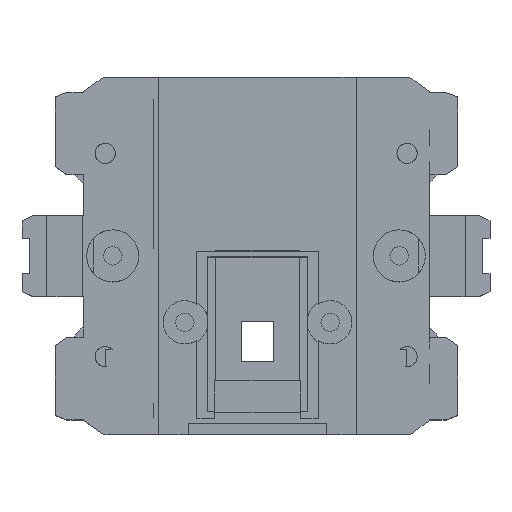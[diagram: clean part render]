
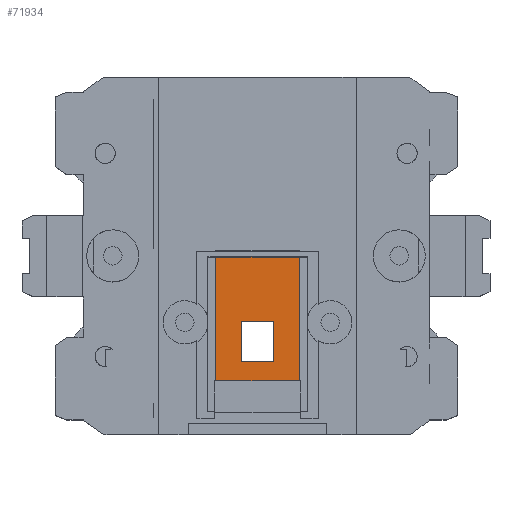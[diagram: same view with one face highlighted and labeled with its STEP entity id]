
A CAD part, top view. The second image highlights one B-rep face of the part: STEP entity #71934.
In plain terms, the highlighted planar face has unit normal (0, 0, 1).
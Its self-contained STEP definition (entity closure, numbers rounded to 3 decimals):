
#71765 = PLANE('',#71766);
#71766 = AXIS2_PLACEMENT_3D('',#71767,#71768,#71769);
#71767 = CARTESIAN_POINT('',(-1.358,-9.716,3.2));
#71768 = DIRECTION('',(1.,0.,-0.));
#71769 = DIRECTION('',(0.,0.,1.));
#71793 = PLANE('',#71794);
#71794 = AXIS2_PLACEMENT_3D('',#71795,#71796,#71797);
#71795 = CARTESIAN_POINT('',(-1.358,-6.016,3.2));
#71796 = DIRECTION('',(-0.,1.,0.));
#71797 = DIRECTION('',(0.,0.,1.));
#71821 = PLANE('',#71822);
#71822 = AXIS2_PLACEMENT_3D('',#71823,#71824,#71825);
#71823 = CARTESIAN_POINT('',(1.642,-9.716,3.2));
#71824 = DIRECTION('',(1.,0.,-0.));
#71825 = DIRECTION('',(0.,0.,1.));
#71847 = PLANE('',#71848);
#71848 = AXIS2_PLACEMENT_3D('',#71849,#71850,#71851);
#71849 = CARTESIAN_POINT('',(-1.358,-9.716,3.2));
#71850 = DIRECTION('',(-0.,1.,0.));
#71851 = DIRECTION('',(0.,0.,1.));
#71863 = VERTEX_POINT('',#71864);
#71864 = CARTESIAN_POINT('',(1.642,-9.716,3.5));
#71887 = VERTEX_POINT('',#71888);
#71888 = CARTESIAN_POINT('',(-1.358,-9.716,3.5));
#71909 = EDGE_CURVE('',#71863,#71887,#71910,.T.);
#71910 = SURFACE_CURVE('',#71911,(#71915,#71922),.PCURVE_S1.);
#71911 = LINE('',#71912,#71913);
#71912 = CARTESIAN_POINT('',(-2.533,-9.716,3.5));
#71913 = VECTOR('',#71914,1.);
#71914 = DIRECTION('',(-1.,-0.,0.));
#71915 = PCURVE('',#71847,#71916);
#71916 = DEFINITIONAL_REPRESENTATION('',(#71917),#71921);
#71917 = LINE('',#71918,#71919);
#71918 = CARTESIAN_POINT('',(0.3,-1.175));
#71919 = VECTOR('',#71920,1.);
#71920 = DIRECTION('',(0.,-1.));
#71921 = ( GEOMETRIC_REPRESENTATION_CONTEXT(2) 
PARAMETRIC_REPRESENTATION_CONTEXT() REPRESENTATION_CONTEXT('2D SPACE',''
  ) );
#71922 = PCURVE('',#71923,#71928);
#71923 = PLANE('',#71924);
#71924 = AXIS2_PLACEMENT_3D('',#71925,#71926,#71927);
#71925 = CARTESIAN_POINT('',(-3.708,-14.316,3.5));
#71926 = DIRECTION('',(0.,0.,1.));
#71927 = DIRECTION('',(1.,0.,-0.));
#71928 = DEFINITIONAL_REPRESENTATION('',(#71929),#71933);
#71929 = LINE('',#71930,#71931);
#71930 = CARTESIAN_POINT('',(1.175,4.6));
#71931 = VECTOR('',#71932,1.);
#71932 = DIRECTION('',(-1.,0.));
#71933 = ( GEOMETRIC_REPRESENTATION_CONTEXT(2) 
PARAMETRIC_REPRESENTATION_CONTEXT() REPRESENTATION_CONTEXT('2D SPACE',''
  ) );
#71934 = ADVANCED_FACE('',(#71935,#72049),#71923,.T.);
#71935 = FACE_BOUND('',#71936,.T.);
#71936 = EDGE_LOOP('',(#71937,#71967,#71995,#72023));
#71937 = ORIENTED_EDGE('',*,*,#71938,.F.);
#71938 = EDGE_CURVE('',#71939,#71941,#71943,.T.);
#71939 = VERTEX_POINT('',#71940);
#71940 = CARTESIAN_POINT('',(-3.708,-11.496,3.5));
#71941 = VERTEX_POINT('',#71942);
#71942 = CARTESIAN_POINT('',(-3.708,0.484,3.5));
#71943 = SURFACE_CURVE('',#71944,(#71948,#71955),.PCURVE_S1.);
#71944 = LINE('',#71945,#71946);
#71945 = CARTESIAN_POINT('',(-3.708,-14.316,3.5));
#71946 = VECTOR('',#71947,1.);
#71947 = DIRECTION('',(-0.,1.,0.));
#71948 = PCURVE('',#71923,#71949);
#71949 = DEFINITIONAL_REPRESENTATION('',(#71950),#71954);
#71950 = LINE('',#71951,#71952);
#71951 = CARTESIAN_POINT('',(0.,0.));
#71952 = VECTOR('',#71953,1.);
#71953 = DIRECTION('',(0.,1.));
#71954 = ( GEOMETRIC_REPRESENTATION_CONTEXT(2) 
PARAMETRIC_REPRESENTATION_CONTEXT() REPRESENTATION_CONTEXT('2D SPACE',''
  ) );
#71955 = PCURVE('',#71956,#71961);
#71956 = PLANE('',#71957);
#71957 = AXIS2_PLACEMENT_3D('',#71958,#71959,#71960);
#71958 = CARTESIAN_POINT('',(-3.708,-14.316,3.5));
#71959 = DIRECTION('',(1.,0.,-0.));
#71960 = DIRECTION('',(0.,0.,1.));
#71961 = DEFINITIONAL_REPRESENTATION('',(#71962),#71966);
#71962 = LINE('',#71963,#71964);
#71963 = CARTESIAN_POINT('',(0.,0.));
#71964 = VECTOR('',#71965,1.);
#71965 = DIRECTION('',(0.,-1.));
#71966 = ( GEOMETRIC_REPRESENTATION_CONTEXT(2) 
PARAMETRIC_REPRESENTATION_CONTEXT() REPRESENTATION_CONTEXT('2D SPACE',''
  ) );
#71967 = ORIENTED_EDGE('',*,*,#71968,.F.);
#71968 = EDGE_CURVE('',#71969,#71939,#71971,.T.);
#71969 = VERTEX_POINT('',#71970);
#71970 = CARTESIAN_POINT('',(3.992,-11.496,3.5));
#71971 = SURFACE_CURVE('',#71972,(#71976,#71983),.PCURVE_S1.);
#71972 = LINE('',#71973,#71974);
#71973 = CARTESIAN_POINT('',(-3.758,-11.496,3.5));
#71974 = VECTOR('',#71975,1.);
#71975 = DIRECTION('',(-1.,-0.,0.));
#71976 = PCURVE('',#71923,#71977);
#71977 = DEFINITIONAL_REPRESENTATION('',(#71978),#71982);
#71978 = LINE('',#71979,#71980);
#71979 = CARTESIAN_POINT('',(-0.05,2.82));
#71980 = VECTOR('',#71981,1.);
#71981 = DIRECTION('',(-1.,0.));
#71982 = ( GEOMETRIC_REPRESENTATION_CONTEXT(2) 
PARAMETRIC_REPRESENTATION_CONTEXT() REPRESENTATION_CONTEXT('2D SPACE',''
  ) );
#71983 = PCURVE('',#71984,#71989);
#71984 = PLANE('',#71985);
#71985 = AXIS2_PLACEMENT_3D('',#71986,#71987,#71988);
#71986 = CARTESIAN_POINT('',(-3.808,-11.496,3.2));
#71987 = DIRECTION('',(-0.,1.,0.));
#71988 = DIRECTION('',(0.,0.,1.));
#71989 = DEFINITIONAL_REPRESENTATION('',(#71990),#71994);
#71990 = LINE('',#71991,#71992);
#71991 = CARTESIAN_POINT('',(0.3,0.05));
#71992 = VECTOR('',#71993,1.);
#71993 = DIRECTION('',(0.,-1.));
#71994 = ( GEOMETRIC_REPRESENTATION_CONTEXT(2) 
PARAMETRIC_REPRESENTATION_CONTEXT() REPRESENTATION_CONTEXT('2D SPACE',''
  ) );
#71995 = ORIENTED_EDGE('',*,*,#71996,.T.);
#71996 = EDGE_CURVE('',#71969,#71997,#71999,.T.);
#71997 = VERTEX_POINT('',#71998);
#71998 = CARTESIAN_POINT('',(3.992,0.484,3.5));
#71999 = SURFACE_CURVE('',#72000,(#72004,#72011),.PCURVE_S1.);
#72000 = LINE('',#72001,#72002);
#72001 = CARTESIAN_POINT('',(3.992,-14.316,3.5));
#72002 = VECTOR('',#72003,1.);
#72003 = DIRECTION('',(-0.,1.,0.));
#72004 = PCURVE('',#71923,#72005);
#72005 = DEFINITIONAL_REPRESENTATION('',(#72006),#72010);
#72006 = LINE('',#72007,#72008);
#72007 = CARTESIAN_POINT('',(7.7,0.));
#72008 = VECTOR('',#72009,1.);
#72009 = DIRECTION('',(0.,1.));
#72010 = ( GEOMETRIC_REPRESENTATION_CONTEXT(2) 
PARAMETRIC_REPRESENTATION_CONTEXT() REPRESENTATION_CONTEXT('2D SPACE',''
  ) );
#72011 = PCURVE('',#72012,#72017);
#72012 = PLANE('',#72013);
#72013 = AXIS2_PLACEMENT_3D('',#72014,#72015,#72016);
#72014 = CARTESIAN_POINT('',(3.992,-14.316,3.5));
#72015 = DIRECTION('',(1.,0.,-0.));
#72016 = DIRECTION('',(0.,0.,1.));
#72017 = DEFINITIONAL_REPRESENTATION('',(#72018),#72022);
#72018 = LINE('',#72019,#72020);
#72019 = CARTESIAN_POINT('',(0.,0.));
#72020 = VECTOR('',#72021,1.);
#72021 = DIRECTION('',(0.,-1.));
#72022 = ( GEOMETRIC_REPRESENTATION_CONTEXT(2) 
PARAMETRIC_REPRESENTATION_CONTEXT() REPRESENTATION_CONTEXT('2D SPACE',''
  ) );
#72023 = ORIENTED_EDGE('',*,*,#72024,.F.);
#72024 = EDGE_CURVE('',#71941,#71997,#72025,.T.);
#72025 = SURFACE_CURVE('',#72026,(#72030,#72037),.PCURVE_S1.);
#72026 = LINE('',#72027,#72028);
#72027 = CARTESIAN_POINT('',(-3.708,0.484,3.5));
#72028 = VECTOR('',#72029,1.);
#72029 = DIRECTION('',(1.,0.,-0.));
#72030 = PCURVE('',#71923,#72031);
#72031 = DEFINITIONAL_REPRESENTATION('',(#72032),#72036);
#72032 = LINE('',#72033,#72034);
#72033 = CARTESIAN_POINT('',(0.,14.8));
#72034 = VECTOR('',#72035,1.);
#72035 = DIRECTION('',(1.,0.));
#72036 = ( GEOMETRIC_REPRESENTATION_CONTEXT(2) 
PARAMETRIC_REPRESENTATION_CONTEXT() REPRESENTATION_CONTEXT('2D SPACE',''
  ) );
#72037 = PCURVE('',#72038,#72043);
#72038 = PLANE('',#72039);
#72039 = AXIS2_PLACEMENT_3D('',#72040,#72041,#72042);
#72040 = CARTESIAN_POINT('',(-3.708,0.484,3.5));
#72041 = DIRECTION('',(-0.,1.,0.));
#72042 = DIRECTION('',(0.,0.,1.));
#72043 = DEFINITIONAL_REPRESENTATION('',(#72044),#72048);
#72044 = LINE('',#72045,#72046);
#72045 = CARTESIAN_POINT('',(0.,0.));
#72046 = VECTOR('',#72047,1.);
#72047 = DIRECTION('',(0.,1.));
#72048 = ( GEOMETRIC_REPRESENTATION_CONTEXT(2) 
PARAMETRIC_REPRESENTATION_CONTEXT() REPRESENTATION_CONTEXT('2D SPACE',''
  ) );
#72049 = FACE_BOUND('',#72050,.T.);
#72050 = EDGE_LOOP('',(#72051,#72052,#72075,#72098));
#72051 = ORIENTED_EDGE('',*,*,#71909,.T.);
#72052 = ORIENTED_EDGE('',*,*,#72053,.T.);
#72053 = EDGE_CURVE('',#71887,#72054,#72056,.T.);
#72054 = VERTEX_POINT('',#72055);
#72055 = CARTESIAN_POINT('',(-1.358,-6.016,3.5));
#72056 = SURFACE_CURVE('',#72057,(#72061,#72068),.PCURVE_S1.);
#72057 = LINE('',#72058,#72059);
#72058 = CARTESIAN_POINT('',(-1.358,-12.016,3.5));
#72059 = VECTOR('',#72060,1.);
#72060 = DIRECTION('',(-0.,1.,0.));
#72061 = PCURVE('',#71923,#72062);
#72062 = DEFINITIONAL_REPRESENTATION('',(#72063),#72067);
#72063 = LINE('',#72064,#72065);
#72064 = CARTESIAN_POINT('',(2.35,2.3));
#72065 = VECTOR('',#72066,1.);
#72066 = DIRECTION('',(0.,1.));
#72067 = ( GEOMETRIC_REPRESENTATION_CONTEXT(2) 
PARAMETRIC_REPRESENTATION_CONTEXT() REPRESENTATION_CONTEXT('2D SPACE',''
  ) );
#72068 = PCURVE('',#71765,#72069);
#72069 = DEFINITIONAL_REPRESENTATION('',(#72070),#72074);
#72070 = LINE('',#72071,#72072);
#72071 = CARTESIAN_POINT('',(0.3,2.3));
#72072 = VECTOR('',#72073,1.);
#72073 = DIRECTION('',(0.,-1.));
#72074 = ( GEOMETRIC_REPRESENTATION_CONTEXT(2) 
PARAMETRIC_REPRESENTATION_CONTEXT() REPRESENTATION_CONTEXT('2D SPACE',''
  ) );
#72075 = ORIENTED_EDGE('',*,*,#72076,.F.);
#72076 = EDGE_CURVE('',#72077,#72054,#72079,.T.);
#72077 = VERTEX_POINT('',#72078);
#72078 = CARTESIAN_POINT('',(1.642,-6.016,3.5));
#72079 = SURFACE_CURVE('',#72080,(#72084,#72091),.PCURVE_S1.);
#72080 = LINE('',#72081,#72082);
#72081 = CARTESIAN_POINT('',(-2.533,-6.016,3.5));
#72082 = VECTOR('',#72083,1.);
#72083 = DIRECTION('',(-1.,-0.,0.));
#72084 = PCURVE('',#71923,#72085);
#72085 = DEFINITIONAL_REPRESENTATION('',(#72086),#72090);
#72086 = LINE('',#72087,#72088);
#72087 = CARTESIAN_POINT('',(1.175,8.3));
#72088 = VECTOR('',#72089,1.);
#72089 = DIRECTION('',(-1.,0.));
#72090 = ( GEOMETRIC_REPRESENTATION_CONTEXT(2) 
PARAMETRIC_REPRESENTATION_CONTEXT() REPRESENTATION_CONTEXT('2D SPACE',''
  ) );
#72091 = PCURVE('',#71793,#72092);
#72092 = DEFINITIONAL_REPRESENTATION('',(#72093),#72097);
#72093 = LINE('',#72094,#72095);
#72094 = CARTESIAN_POINT('',(0.3,-1.175));
#72095 = VECTOR('',#72096,1.);
#72096 = DIRECTION('',(0.,-1.));
#72097 = ( GEOMETRIC_REPRESENTATION_CONTEXT(2) 
PARAMETRIC_REPRESENTATION_CONTEXT() REPRESENTATION_CONTEXT('2D SPACE',''
  ) );
#72098 = ORIENTED_EDGE('',*,*,#72099,.F.);
#72099 = EDGE_CURVE('',#71863,#72077,#72100,.T.);
#72100 = SURFACE_CURVE('',#72101,(#72105,#72112),.PCURVE_S1.);
#72101 = LINE('',#72102,#72103);
#72102 = CARTESIAN_POINT('',(1.642,-12.016,3.5));
#72103 = VECTOR('',#72104,1.);
#72104 = DIRECTION('',(-0.,1.,0.));
#72105 = PCURVE('',#71923,#72106);
#72106 = DEFINITIONAL_REPRESENTATION('',(#72107),#72111);
#72107 = LINE('',#72108,#72109);
#72108 = CARTESIAN_POINT('',(5.35,2.3));
#72109 = VECTOR('',#72110,1.);
#72110 = DIRECTION('',(0.,1.));
#72111 = ( GEOMETRIC_REPRESENTATION_CONTEXT(2) 
PARAMETRIC_REPRESENTATION_CONTEXT() REPRESENTATION_CONTEXT('2D SPACE',''
  ) );
#72112 = PCURVE('',#71821,#72113);
#72113 = DEFINITIONAL_REPRESENTATION('',(#72114),#72118);
#72114 = LINE('',#72115,#72116);
#72115 = CARTESIAN_POINT('',(0.3,2.3));
#72116 = VECTOR('',#72117,1.);
#72117 = DIRECTION('',(0.,-1.));
#72118 = ( GEOMETRIC_REPRESENTATION_CONTEXT(2) 
PARAMETRIC_REPRESENTATION_CONTEXT() REPRESENTATION_CONTEXT('2D SPACE',''
  ) );
